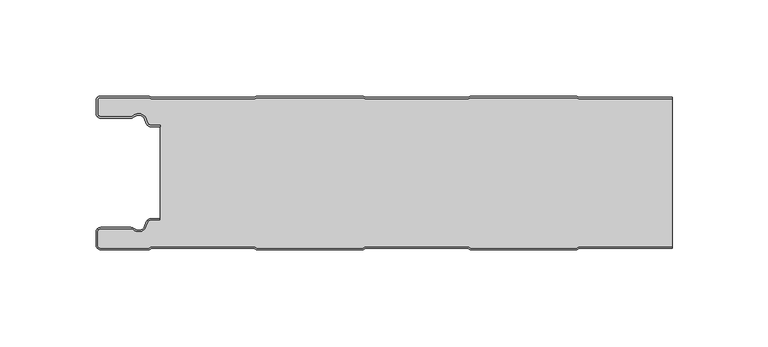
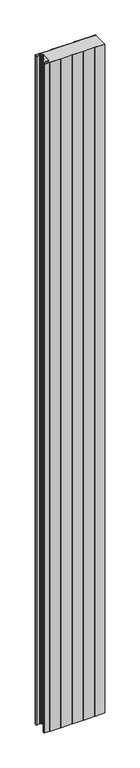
"""IFC4 building model written with IfcOpenShell, lengths in millimetres: plate geometry, ACH_Panel-Frigorífico_PUR-PIR : ACH_Panel-Frigorífico-PUR_80mm."""

from ifc_helpers import new_model, si_unit, point, frame_2d, origin, origin_with_axes, place, context, project, spatial, polyline, circle_curve, trimmed, segment, composite_curve, outline, extrude, source, transform, mapped, element, save


def plate_353f5471(model_context):
    return source(origin(), model_context, "Body", "SweptSolid", [
        extrude(outline(composite_curve([segment(trimmed(circle_curve(frame_2d((-147.49499, -9.0180361)), 2.50501), [point((-147.49499, -11.5230461))], [point((-150.0, -9.0180361))], False, "CARTESIAN"), True, "CONTINUOUS"), segment(polyline([(-150.0, -9.0180361), (-150.0, -2.50501)]), True, "CONTINUOUS"), segment(trimmed(circle_curve(frame_2d((-147.49499, -2.50501)), 2.50501), [point((-150.0, -2.50501))], [point((-147.49499, 0.0))], False, "CARTESIAN"), True, "CONTINUOUS"), segment(polyline([(-147.49499, 0.0), (-122.2103007, 0.0), (-121.028188, -0.6012024), (-67.6391467, -0.6012024), (-66.457034, 0.0), (-10.8776353, 0.0), (-9.6955227, -0.6012024), (43.6935186, -0.6012024), (44.8756313, 0.0), (100.45503, 0.0), (101.6371427, -0.6012024), (150.0, -0.6012024), (150.0, -1.4012024), (101.4453963, -1.4012024), (100.2632836, -0.8), (45.0673777, -0.8), (43.885265, -1.4012024), (-9.887269, -1.4012024), (-11.0693817, -0.8), (-66.2652876, -0.8), (-67.4474003, -1.4012024), (-121.2199344, -1.4012024), (-122.4020471, -0.8), (-147.49499, -0.8)]), True, "CONTINUOUS"), segment(trimmed(circle_curve(frame_2d((-147.49499, -2.50501)), 1.70501), [point((-147.49499, -0.8))], [point((-149.2, -2.50501))], True, "CARTESIAN"), True, "CONTINUOUS"), segment(polyline([(-149.2, -2.50501), (-149.2, -9.0180361)]), True, "CONTINUOUS"), segment(trimmed(circle_curve(frame_2d((-147.49499, -9.0180361)), 1.70501), [point((-149.2, -9.0180361))], [point((-147.49499, -10.7230461))], True, "CARTESIAN"), True, "CONTINUOUS"), segment(polyline([(-147.49499, -10.7230461), (-131.8173283, -10.7230461)]), True, "CONTINUOUS"), segment(trimmed(circle_curve(frame_2d((-131.8173283, -9.0180361)), 1.70501), [point((-131.8173283, -10.7230461))], [point((-130.6895701, -10.2967936))], True, "CARTESIAN"), True, "CONTINUOUS"), segment(trimmed(circle_curve(frame_2d((-127.8407481, -13.5270541)), 4.307014), [point((-130.6895701, -10.2967936))], [point((-123.7934788, -12.0539686))], False, "CARTESIAN"), True, "CONTINUOUS"), segment(polyline([(-123.7934788, -12.0539686), (-123.0450711, -14.1102019)]), True, "CONTINUOUS"), segment(trimmed(circle_curve(frame_2d((-121.4428858, -13.5270541)), 1.70501), [point((-123.0450711, -14.1102019))], [point((-121.4428858, -15.2320641))], True, "CARTESIAN"), True, "CONTINUOUS"), segment(polyline([(-121.4428858, -15.2320641), (-116.4328657, -15.2320641), (-116.4328657, -16.0320641), (-121.4428858, -16.0320641)]), True, "CONTINUOUS"), segment(trimmed(circle_curve(frame_2d((-121.4428858, -13.5270541)), 2.50501), [point((-121.4428858, -16.0320641))], [point((-123.7968252, -14.383818))], False, "CARTESIAN"), True, "CONTINUOUS"), segment(polyline([(-123.7968252, -14.383818), (-124.5452329, -12.3275847)]), True, "CONTINUOUS"), segment(trimmed(circle_curve(frame_2d((-127.8407481, -13.5270541)), 3.507014), [point((-124.5452329, -12.3275847))], [point((-130.1604199, -10.8967936))], True, "CARTESIAN"), True, "CONTINUOUS"), segment(trimmed(circle_curve(frame_2d((-131.8173283, -9.0180361)), 2.50501), [point((-130.1604199, -10.8967936))], [point((-131.8173283, -11.5230461))], False, "CARTESIAN"), True, "CONTINUOUS"), segment(polyline([(-131.8173283, -11.5230461), (-147.49499, -11.5230461)]), True, "CONTINUOUS")], self_intersect=False)), origin_with_axes(), (0.0, 0.0, 1.0), 3500.0),
        extrude(outline(composite_curve([segment(trimmed(circle_curve(frame_2d((-121.4428858, -13.5270541)), 1.70501), [point((-121.4428858, -15.2320641))], [point((-123.0450711, -14.1102019))], False, "CARTESIAN"), True, "CONTINUOUS"), segment(polyline([(-123.0450711, -14.1102019), (-123.7934788, -12.0539686)]), True, "CONTINUOUS"), segment(trimmed(circle_curve(frame_2d((-127.8407481, -13.5270541)), 4.307014), [point((-123.7934788, -12.0539686))], [point((-130.6895701, -10.2967936))], True, "CARTESIAN"), True, "CONTINUOUS"), segment(trimmed(circle_curve(frame_2d((-131.8173283, -9.0180361)), 1.70501), [point((-130.6895701, -10.2967936))], [point((-131.8173283, -10.7230461))], False, "CARTESIAN"), True, "CONTINUOUS"), segment(polyline([(-131.8173283, -10.7230461), (-147.49499, -10.7230461)]), True, "CONTINUOUS"), segment(trimmed(circle_curve(frame_2d((-147.49499, -9.0180361)), 1.70501), [point((-147.49499, -10.7230461))], [point((-149.2, -9.0180361))], False, "CARTESIAN"), True, "CONTINUOUS"), segment(polyline([(-149.2, -9.0180361), (-149.2, -2.50501)]), True, "CONTINUOUS"), segment(trimmed(circle_curve(frame_2d((-147.49499, -2.50501)), 1.70501), [point((-149.2, -2.50501))], [point((-147.49499, -0.8))], False, "CARTESIAN"), True, "CONTINUOUS"), segment(polyline([(-147.49499, -0.8), (-122.4020471, -0.8), (-121.2199344, -1.4012024), (-67.4474003, -1.4012024), (-66.2652876, -0.8), (-11.0693817, -0.8), (-9.887269, -1.4012024), (43.885265, -1.4012024), (45.0673777, -0.8), (100.2632836, -0.8), (101.4453963, -1.4012024), (150.0, -1.4012024), (150.0, -78.5987976), (101.4453963, -78.5987976), (100.2632836, -79.2), (45.0673777, -79.2), (43.885265, -78.5987976), (-9.887269, -78.5987976), (-11.0693817, -79.2), (-66.2652876, -79.2), (-67.4474003, -78.5987976), (-121.2199344, -78.5987976), (-122.4020471, -79.2), (-147.49499, -79.2)]), True, "CONTINUOUS"), segment(trimmed(circle_curve(frame_2d((-147.49499, -77.49499)), 1.70501), [point((-147.49499, -79.2))], [point((-149.2, -77.49499))], False, "CARTESIAN"), True, "CONTINUOUS"), segment(polyline([(-149.2, -77.49499), (-149.2, -70.9819639)]), True, "CONTINUOUS"), segment(trimmed(circle_curve(frame_2d((-147.49499, -70.9819639)), 1.70501), [point((-149.2, -70.9819639))], [point((-147.49499, -69.2769539))], False, "CARTESIAN"), True, "CONTINUOUS"), segment(polyline([(-147.49499, -69.2769539), (-131.8173283, -69.2769539)]), True, "CONTINUOUS"), segment(trimmed(circle_curve(frame_2d((-131.8173283, -70.9819639)), 1.70501), [point((-131.8173283, -69.2769539))], [point((-130.6895701, -69.7032064))], False, "CARTESIAN"), True, "CONTINUOUS"), segment(trimmed(circle_curve(frame_2d((-127.8407481, -66.4729459)), 4.307014), [point((-130.6895701, -69.7032064))], [point((-123.7934788, -67.9460314))], True, "CARTESIAN"), True, "CONTINUOUS"), segment(polyline([(-123.7934788, -67.9460314), (-123.0450711, -65.8897981)]), True, "CONTINUOUS"), segment(trimmed(circle_curve(frame_2d((-121.4428858, -66.4729459)), 1.70501), [point((-123.0450711, -65.8897981))], [point((-121.4428858, -64.7679359))], False, "CARTESIAN"), True, "CONTINUOUS"), segment(polyline([(-121.4428858, -64.7679359), (-116.4328657, -64.7679359), (-116.4328657, -15.2320641), (-121.4428858, -15.2320641)]), True, "CONTINUOUS")], self_intersect=False)), origin_with_axes(), (0.0, 0.0, 1.0), 3500.0),
        extrude(outline(composite_curve([segment(polyline([(-147.49499, -68.4769539), (-131.8173283, -68.4769539)]), True, "CONTINUOUS"), segment(trimmed(circle_curve(frame_2d((-131.8173283, -70.9819639)), 2.50501), [point((-131.8173283, -68.4769539))], [point((-130.1604199, -69.1032064))], False, "CARTESIAN"), True, "CONTINUOUS"), segment(trimmed(circle_curve(frame_2d((-127.8407481, -66.4729459)), 3.507014), [point((-130.1604199, -69.1032064))], [point((-124.5452329, -67.6724153))], True, "CARTESIAN"), True, "CONTINUOUS"), segment(polyline([(-124.5452329, -67.6724153), (-123.7968252, -65.616182)]), True, "CONTINUOUS"), segment(trimmed(circle_curve(frame_2d((-121.4428858, -66.4729459)), 2.50501), [point((-123.7968252, -65.616182))], [point((-121.4428858, -63.9679359))], False, "CARTESIAN"), True, "CONTINUOUS"), segment(polyline([(-121.4428858, -63.9679359), (-116.4328657, -63.9679359), (-116.4328657, -64.7679359), (-121.4428858, -64.7679359)]), True, "CONTINUOUS"), segment(trimmed(circle_curve(frame_2d((-121.4428858, -66.4729459)), 1.70501), [point((-121.4428858, -64.7679359))], [point((-123.0450711, -65.8897981))], True, "CARTESIAN"), True, "CONTINUOUS"), segment(polyline([(-123.0450711, -65.8897981), (-123.7934788, -67.9460314)]), True, "CONTINUOUS"), segment(trimmed(circle_curve(frame_2d((-127.8407481, -66.4729459)), 4.307014), [point((-123.7934788, -67.9460314))], [point((-130.6895701, -69.7032064))], False, "CARTESIAN"), True, "CONTINUOUS"), segment(trimmed(circle_curve(frame_2d((-131.8173283, -70.9819639)), 1.70501), [point((-130.6895701, -69.7032064))], [point((-131.8173283, -69.2769539))], True, "CARTESIAN"), True, "CONTINUOUS"), segment(polyline([(-131.8173283, -69.2769539), (-147.49499, -69.2769539)]), True, "CONTINUOUS"), segment(trimmed(circle_curve(frame_2d((-147.49499, -70.9819639)), 1.70501), [point((-147.49499, -69.2769539))], [point((-149.2, -70.9819639))], True, "CARTESIAN"), True, "CONTINUOUS"), segment(polyline([(-149.2, -70.9819639), (-149.2, -77.49499)]), True, "CONTINUOUS"), segment(trimmed(circle_curve(frame_2d((-147.49499, -77.49499)), 1.70501), [point((-149.2, -77.49499))], [point((-147.49499, -79.2))], True, "CARTESIAN"), True, "CONTINUOUS"), segment(polyline([(-147.49499, -79.2), (-122.4020471, -79.2), (-121.2199344, -78.5987976), (-67.4474003, -78.5987976), (-66.2652876, -79.2), (-11.0693817, -79.2), (-9.887269, -78.5987976), (43.885265, -78.5987976), (45.0673777, -79.2), (100.2632836, -79.2), (101.4453963, -78.5987976), (150.0, -78.5987976), (150.0, -79.3987976), (101.6371427, -79.3987976), (100.45503, -80.0), (44.8756313, -80.0), (43.6935186, -79.3987976), (-9.6955227, -79.3987976), (-10.8776353, -80.0), (-66.457034, -80.0), (-67.6391467, -79.3987976), (-121.028188, -79.3987976), (-122.2103007, -80.0), (-147.49499, -80.0)]), True, "CONTINUOUS"), segment(trimmed(circle_curve(frame_2d((-147.49499, -77.49499)), 2.50501), [point((-147.49499, -80.0))], [point((-150.0, -77.49499))], False, "CARTESIAN"), True, "CONTINUOUS"), segment(polyline([(-150.0, -77.49499), (-150.0, -70.9819639)]), True, "CONTINUOUS"), segment(trimmed(circle_curve(frame_2d((-147.49499, -70.9819639)), 2.50501), [point((-150.0, -70.9819639))], [point((-147.49499, -68.4769539))], False, "CARTESIAN"), True, "CONTINUOUS")], self_intersect=False)), origin_with_axes(), (0.0, 0.0, 1.0), 3500.0),
    ])


if __name__ == "__main__":
    model = new_model("IFC4")
    model_context = context("Model", 3, world=origin())
    ifc_project = project(units=[si_unit("LENGTHUNIT", "METRE", prefix="MILLI")], contexts=[model_context])
    site = spatial("IfcSite", under=ifc_project)
    building = spatial("IfcBuilding", under=site)
    placement = place(None, origin())
    plate_shape = plate_353f5471(model_context)
    element("IfcPlate", 1, ObjectType="ACH_Panel-Frigorífico_PUR-PIR : ACH_Panel-Frigorífico-PUR_80mm", at=placement, inside=building, context=model_context, shape_type="MappedRepresentation", body=[
        mapped(plate_shape, transform((0.0, 0.0, 0.0), x_axis=(1.0, 0.0, 0.0), y_axis=(0.0, 1.0, 0.0), z_axis=(0.0, 0.0, 1.0))),
    ])
    save(model, "model.ifc")
